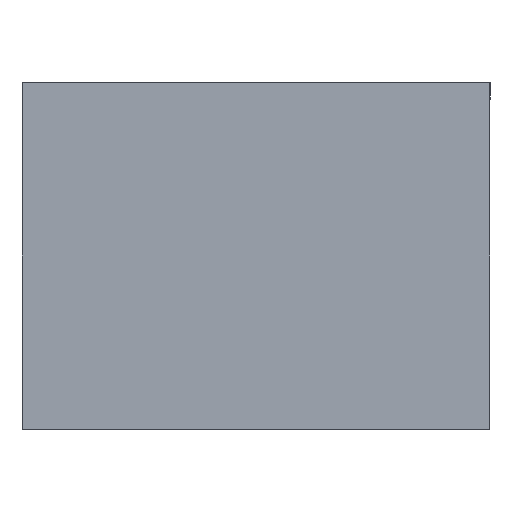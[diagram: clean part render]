
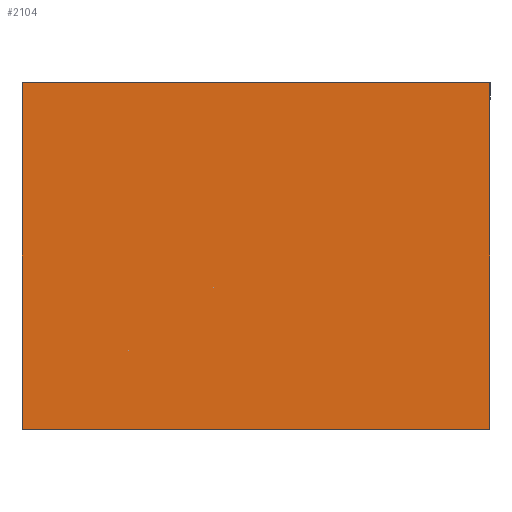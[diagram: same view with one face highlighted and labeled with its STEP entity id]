
A CAD part, front view. The second image highlights one B-rep face of the part: STEP entity #2104.
In plain terms, the highlighted planar face has unit normal (0, -1, 0).
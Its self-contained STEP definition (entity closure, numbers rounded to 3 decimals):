
#57 = CARTESIAN_POINT ( 'NONE',  ( 42.5, 0., -31.5 ) ) ;
#163 = CARTESIAN_POINT ( 'NONE',  ( -42.5, 0., 31.5 ) ) ;
#229 = LINE ( 'NONE', #2328, #1211 ) ;
#257 = FACE_OUTER_BOUND ( 'NONE', #2039, .T. ) ;
#301 = DIRECTION ( 'NONE',  ( 1., 0., 0. ) ) ;
#306 = AXIS2_PLACEMENT_3D ( 'NONE', #1257, #338, #1657 ) ;
#320 = DIRECTION ( 'NONE',  ( -1., 0., 0. ) ) ;
#334 = EDGE_CURVE ( 'NONE', #1174, #1248, #2381, .T. ) ;
#338 = DIRECTION ( 'NONE',  ( 0., 1., 0. ) ) ;
#376 = VECTOR ( 'NONE', #320, 1000. ) ;
#421 = CARTESIAN_POINT ( 'NONE',  ( -42.5, 0., -31.5 ) ) ;
#527 = VERTEX_POINT ( 'NONE', #163 ) ;
#742 = ORIENTED_EDGE ( 'NONE', *, *, #1282, .F. ) ;
#784 = LINE ( 'NONE', #57, #2237 ) ;
#871 = LINE ( 'NONE', #2118, #1835 ) ;
#897 = ORIENTED_EDGE ( 'NONE', *, *, #1990, .F. ) ;
#1053 = VERTEX_POINT ( 'NONE', #2241 ) ;
#1076 = PLANE ( 'NONE',  #306 ) ;
#1171 = DIRECTION ( 'NONE',  ( 0., 0., -1. ) ) ;
#1174 = VERTEX_POINT ( 'NONE', #1720 ) ;
#1177 = DIRECTION ( 'NONE',  ( 0., 0., 1. ) ) ;
#1211 = VECTOR ( 'NONE', #1177, 1000. ) ;
#1248 = VERTEX_POINT ( 'NONE', #421 ) ;
#1255 = CARTESIAN_POINT ( 'NONE',  ( -42.5, 0., -31.5 ) ) ;
#1257 = CARTESIAN_POINT ( 'NONE',  ( 0., 0., 0. ) ) ;
#1282 = EDGE_CURVE ( 'NONE', #1053, #1174, #784, .T. ) ;
#1289 = EDGE_CURVE ( 'NONE', #1248, #527, #229, .T. ) ;
#1657 = DIRECTION ( 'NONE',  ( 0., 0., 1. ) ) ;
#1719 = ORIENTED_EDGE ( 'NONE', *, *, #334, .F. ) ;
#1720 = CARTESIAN_POINT ( 'NONE',  ( 42.5, 0., -31.5 ) ) ;
#1835 = VECTOR ( 'NONE', #301, 1000. ) ;
#1990 = EDGE_CURVE ( 'NONE', #527, #1053, #871, .T. ) ;
#2000 = ORIENTED_EDGE ( 'NONE', *, *, #1289, .F. ) ;
#2039 = EDGE_LOOP ( 'NONE', ( #742, #897, #2000, #1719 ) ) ;
#2104 = ADVANCED_FACE ( 'NONE', ( #257 ), #1076, .F. ) ;
#2118 = CARTESIAN_POINT ( 'NONE',  ( -42.5, 0., 31.5 ) ) ;
#2237 = VECTOR ( 'NONE', #1171, 1000. ) ;
#2241 = CARTESIAN_POINT ( 'NONE',  ( 42.5, 0., 31.5 ) ) ;
#2328 = CARTESIAN_POINT ( 'NONE',  ( -42.5, 0., -31.5 ) ) ;
#2381 = LINE ( 'NONE', #1255, #376 ) ;
